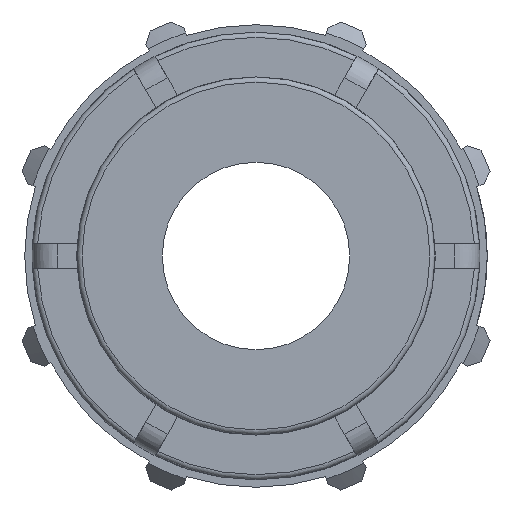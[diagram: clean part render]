
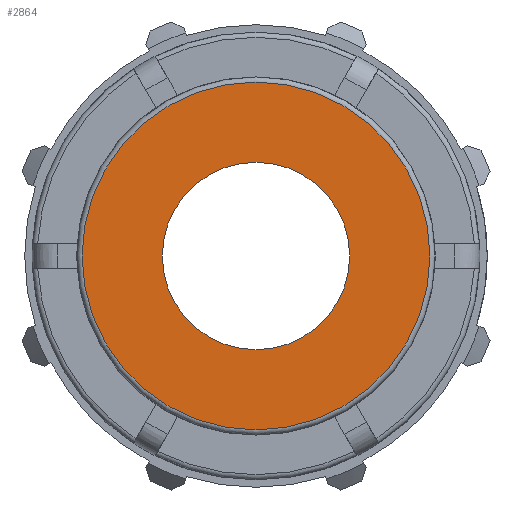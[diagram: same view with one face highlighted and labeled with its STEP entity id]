
A CAD part, left-side view. The second image highlights one B-rep face of the part: STEP entity #2864.
In plain terms, the highlighted planar face has unit normal (-1, 0, 0).
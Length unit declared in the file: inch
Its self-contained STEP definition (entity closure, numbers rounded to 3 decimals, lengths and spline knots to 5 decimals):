
#66=FACE_BOUND('',#814,.T.);
#549=PLANE('',#3106);
#659=FACE_OUTER_BOUND('',#813,.T.);
#813=EDGE_LOOP('',(#2161,#2162));
#814=EDGE_LOOP('',(#2163,#2164));
#973=CIRCLE('',#3103,0.88098);
#974=CIRCLE('',#3104,0.88098);
#976=CIRCLE('',#3107,0.47474);
#977=CIRCLE('',#3108,0.47474);
#1224=VERTEX_POINT('',#4779);
#1225=VERTEX_POINT('',#4781);
#1226=VERTEX_POINT('',#4786);
#1227=VERTEX_POINT('',#4787);
#1570=EDGE_CURVE('',#1224,#1225,#973,.T.);
#1571=EDGE_CURVE('',#1225,#1224,#974,.T.);
#1573=EDGE_CURVE('',#1226,#1227,#976,.T.);
#1574=EDGE_CURVE('',#1227,#1226,#977,.T.);
#2161=ORIENTED_EDGE('',*,*,#1571,.F.);
#2162=ORIENTED_EDGE('',*,*,#1570,.F.);
#2163=ORIENTED_EDGE('',*,*,#1573,.T.);
#2164=ORIENTED_EDGE('',*,*,#1574,.T.);
#2864=ADVANCED_FACE('',(#659,#66),#549,.T.);
#3103=AXIS2_PLACEMENT_3D('',#4782,#3631,#3632);
#3104=AXIS2_PLACEMENT_3D('',#4783,#3633,#3634);
#3106=AXIS2_PLACEMENT_3D('',#4785,#3637,#3638);
#3107=AXIS2_PLACEMENT_3D('',#4788,#3639,#3640);
#3108=AXIS2_PLACEMENT_3D('',#4789,#3641,#3642);
#3631=DIRECTION('center_axis',(1.,0.,0.));
#3632=DIRECTION('ref_axis',(0.,-1.,0.));
#3633=DIRECTION('center_axis',(1.,0.,0.));
#3634=DIRECTION('ref_axis',(0.,-1.,0.));
#3637=DIRECTION('center_axis',(-1.,0.,0.));
#3638=DIRECTION('ref_axis',(0.,0.,1.));
#3639=DIRECTION('center_axis',(1.,0.,0.));
#3640=DIRECTION('ref_axis',(0.,0.,-1.));
#3641=DIRECTION('center_axis',(1.,0.,0.));
#3642=DIRECTION('ref_axis',(0.,0.,-1.));
#4779=CARTESIAN_POINT('',(0.,0.,0.88098));
#4781=CARTESIAN_POINT('',(0.,0.88098,0.));
#4782=CARTESIAN_POINT('Origin',(0.,0.,0.));
#4783=CARTESIAN_POINT('Origin',(0.,0.,0.));
#4785=CARTESIAN_POINT('Origin',(0.,0.9072,0.));
#4786=CARTESIAN_POINT('',(0.,0.47474,0.));
#4787=CARTESIAN_POINT('',(0.,-0.47474,0.));
#4788=CARTESIAN_POINT('Origin',(0.,0.,0.));
#4789=CARTESIAN_POINT('Origin',(0.,0.,0.));
